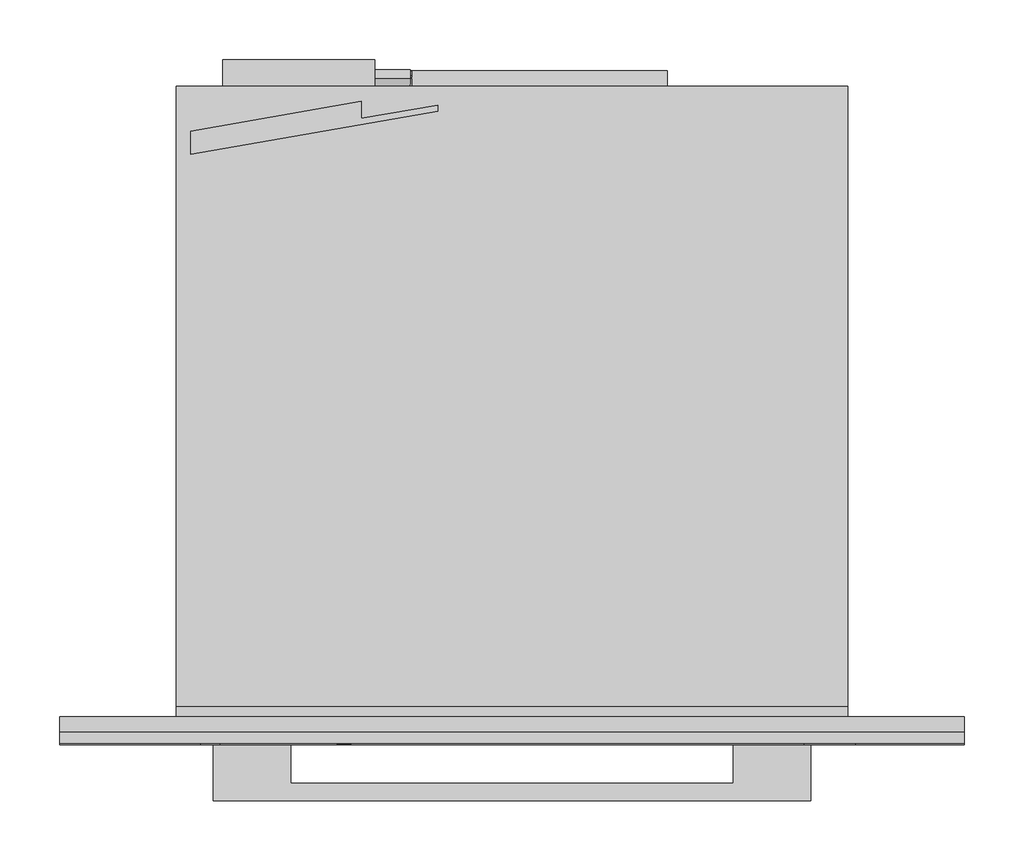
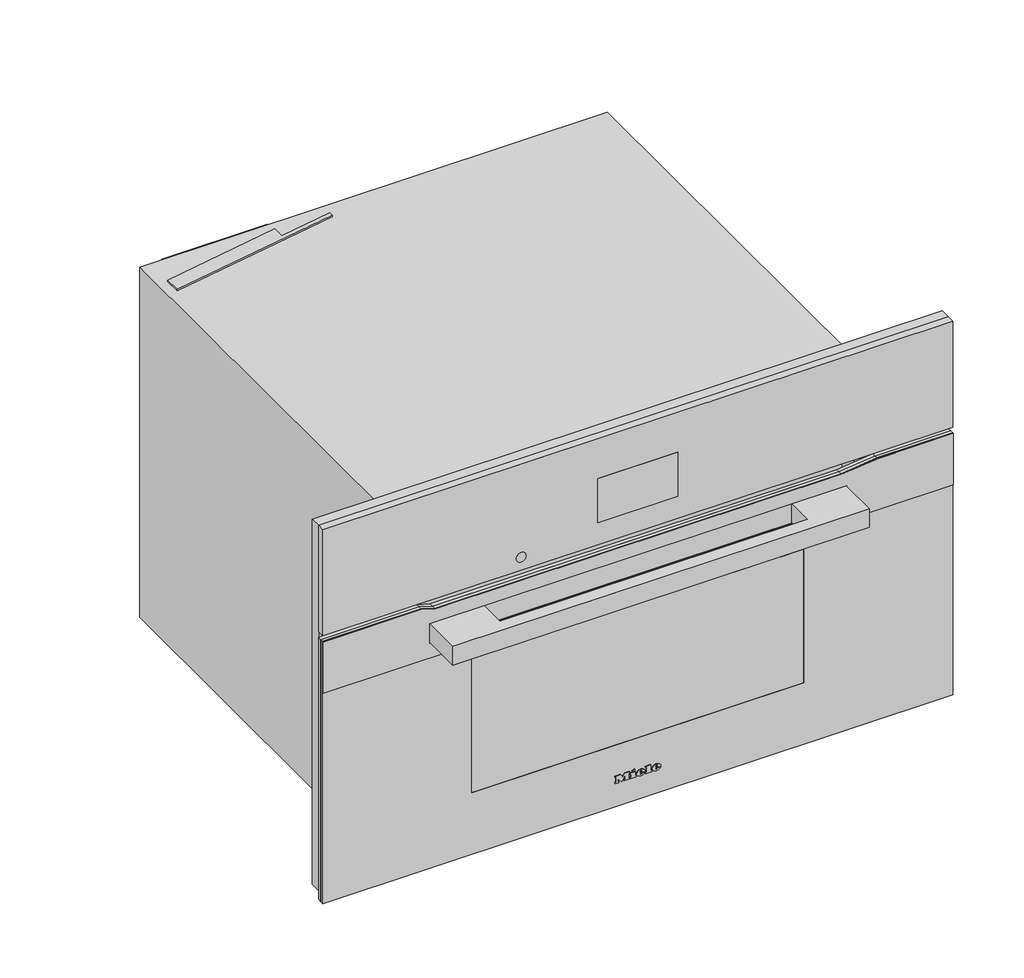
# Not in any storey: 1 proxy.
"""IFC4 building model written with IfcOpenShell, lengths in millimetres."""

from ifc_helpers import new_model, si_unit, origin, place, context, project, spatial, transform, mapped, element, save
from components import specialty_equipment_2ededa6e

model = new_model("IFC4")

# Units and contexts
model_context = context("Model", 3, world=origin())
ifc_project = project(units=[si_unit("LENGTHUNIT", "METRE", prefix="MILLI")], contexts=[model_context])

# Site, building
site = spatial("IfcSite", under=ifc_project)
building = spatial("IfcBuilding", under=site)

# Proxy
placement = place(None, origin())
specialty_equipment_shape = specialty_equipment_2ededa6e(model_context)
element("IfcBuildingElementProxy", 1, Name="11804610_USA_H7670BM_EDST-CLST : 22767046_USA_11804610_H7670BM_EDST-CLST", ObjectType="11804610_USA_H7670BM_EDST-CLST : 22767046_USA_11804610_H7670BM_EDST-CLST", at=placement, inside=building, context=model_context, shape_type="MappedRepresentation", body=[
    mapped(specialty_equipment_shape, transform((0.0, 0.0, 0.0), x_axis=(1.0, 0.0, 0.0), y_axis=(0.0, 1.0, 0.0), z_axis=(0.0, 0.0, 1.0))),
])

save(model, "model.ifc")
